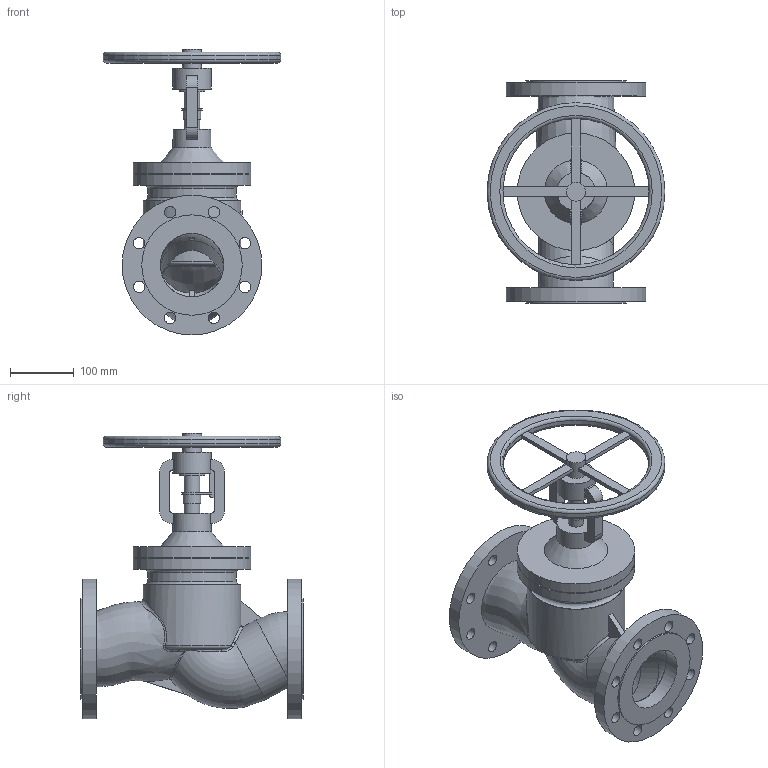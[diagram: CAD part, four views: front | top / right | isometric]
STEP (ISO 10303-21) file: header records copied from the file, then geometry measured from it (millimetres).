
FILE_DESCRIPTION(('STEP AP203'), '1');
FILE_NAME('孰囡囗 玎镱痦 BV1F DN100', '', ('UNSPECIFIED'), ('UNSPECIFIED'), 'ASCON STEP Converter 1.6', 'ASCON Math Kernel', '');
FILE_SCHEMA(('CONFIG_CONTROL_DESIGN'));
Length unit declared in the file: millimetre
Bounding box: 280 x 350 x 450 mm (x, y, z)
Volume: 6141514.1 mm3; surface area: 624761 mm2
Topology: 1 solids, 2 shells, 197 faces, 535 edges, 361 vertices
Faces by surface type: plane 101, cylinder 58, bspline 22, torus 15, cone 1
Full cylindrical faces by diameter (mm): 18 x16, 24 x2, 28 x1, 30 x1, 40 x1, 60 x2, 100 x3, 140 x1, 154 x1, 158 x2, 175 x1, 185 x2, 220 x2, 230 x1, 280 x1
Entity records: 47603 total; most frequent: CARTESIAN_POINT 41213, ORIENTED_EDGE 972, DIRECTION 916, EDGE_CURVE 486, AXIS2_PLACEMENT_3D 375, VERTEX_POINT 361, EDGE_LOOP 309, FACE_BOUND 252
